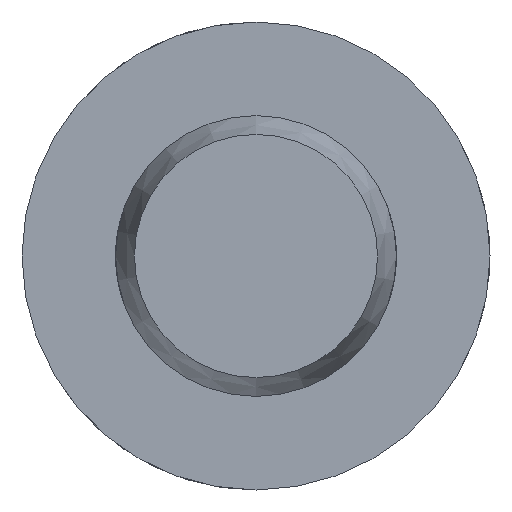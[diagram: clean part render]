
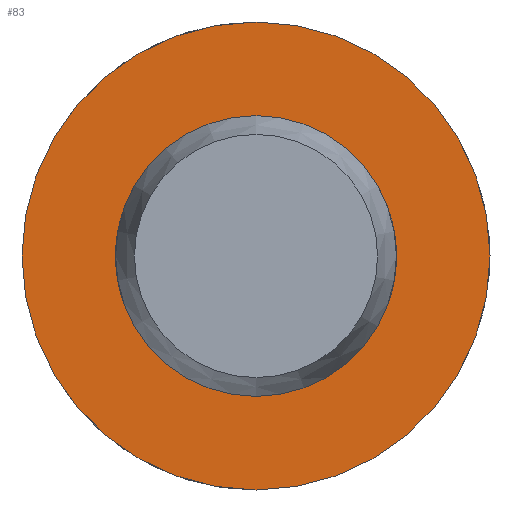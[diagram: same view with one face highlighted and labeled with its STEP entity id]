
A CAD part, left-side view. The second image highlights one B-rep face of the part: STEP entity #83.
In plain terms, the highlighted planar face has unit normal (-1, 0, 0).
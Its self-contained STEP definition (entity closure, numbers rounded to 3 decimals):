
#83 = ADVANCED_FACE( '', ( #128, #129 ), #130, .F. );
#128 = FACE_OUTER_BOUND( '', #205, .T. );
#129 = FACE_BOUND( '', #206, .T. );
#130 = PLANE( '', #207 );
#205 = EDGE_LOOP( '', ( #320 ) );
#206 = EDGE_LOOP( '', ( #321 ) );
#207 = AXIS2_PLACEMENT_3D( '', #322, #323, #324 );
#320 = ORIENTED_EDGE( '', *, *, #484, .F. );
#321 = ORIENTED_EDGE( '', *, *, #474, .T. );
#322 = CARTESIAN_POINT( '', ( 90.6, 6., 0. ) );
#323 = DIRECTION( '', ( 1., 0., 0. ) );
#324 = DIRECTION( '', ( 0., 0., -1. ) );
#474 = EDGE_CURVE( '', #545, #545, #546, .T. );
#484 = EDGE_CURVE( '', #563, #563, #564, .T. );
#545 = VERTEX_POINT( '', #734 );
#546 = CIRCLE( '', #735, 6. );
#563 = VERTEX_POINT( '', #903 );
#564 = CIRCLE( '', #904, 10. );
#734 = CARTESIAN_POINT( '', ( 90.6, 0., -6. ) );
#735 = AXIS2_PLACEMENT_3D( '', #965, #966, #967 );
#903 = CARTESIAN_POINT( '', ( 90.6, 0., -10. ) );
#904 = AXIS2_PLACEMENT_3D( '', #986, #987, #988 );
#965 = CARTESIAN_POINT( '', ( 90.6, 0., 0. ) );
#966 = DIRECTION( '', ( 1., 0., 0. ) );
#967 = DIRECTION( '', ( 0., 0., -1. ) );
#986 = CARTESIAN_POINT( '', ( 90.6, 0., 0. ) );
#987 = DIRECTION( '', ( 1., 0., 0. ) );
#988 = DIRECTION( '', ( 0., 0., -1. ) );
